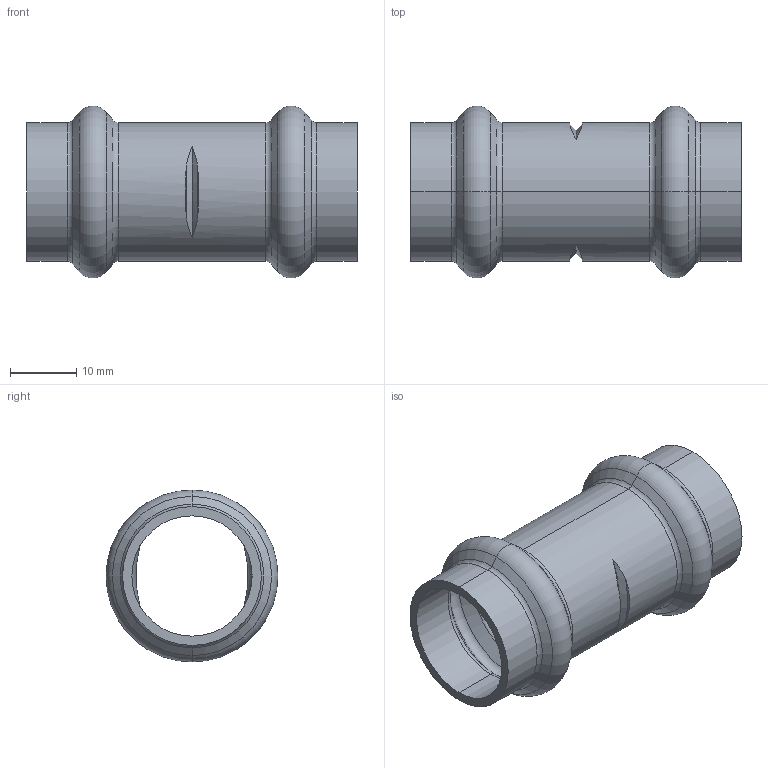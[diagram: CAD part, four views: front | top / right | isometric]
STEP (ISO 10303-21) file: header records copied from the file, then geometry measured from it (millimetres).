
FILE_DESCRIPTION (( 'STEP AP203' ), '1' );
FILE_NAME ('SP5270 18.STEP', '2017-04-24T09:18:12', ( '' ), ( '' ), 'SwSTEP 2.0', 'SolidWorks 2016', '' );
FILE_SCHEMA (( 'CONFIG_CONTROL_DESIGN' ));
Length unit declared in the file: millimetre
Products named in the file (1): SP5270 18
Bounding box: 50 x 26 x 26 mm (x, y, z)
Volume: 4837.1 mm3; surface area: 7146.7 mm2
Topology: 1 solids, 1 shells, 70 faces, 144 edges, 80 vertices
Faces by surface type: torus 28, cone 24, cylinder 12, plane 6
Entity records: 2081 total; most frequent: CARTESIAN_POINT 487, DIRECTION 366, ORIENTED_EDGE 288, AXIS2_PLACEMENT_3D 167, EDGE_CURVE 144, CIRCLE 96, VERTEX_POINT 80, EDGE_LOOP 76
